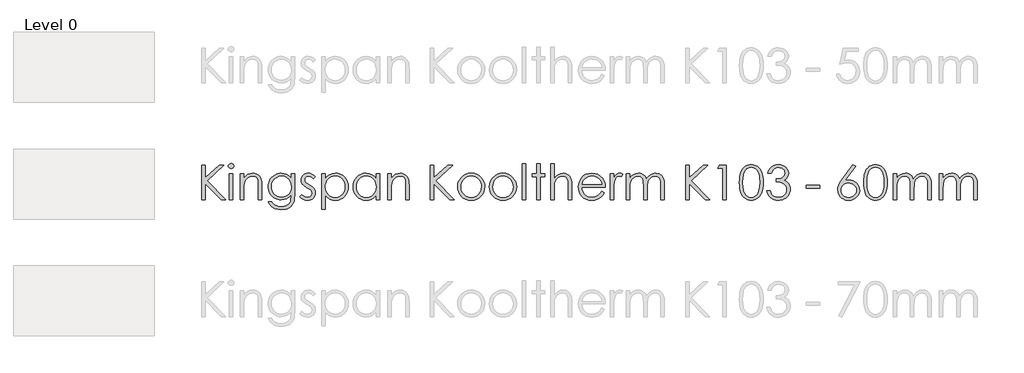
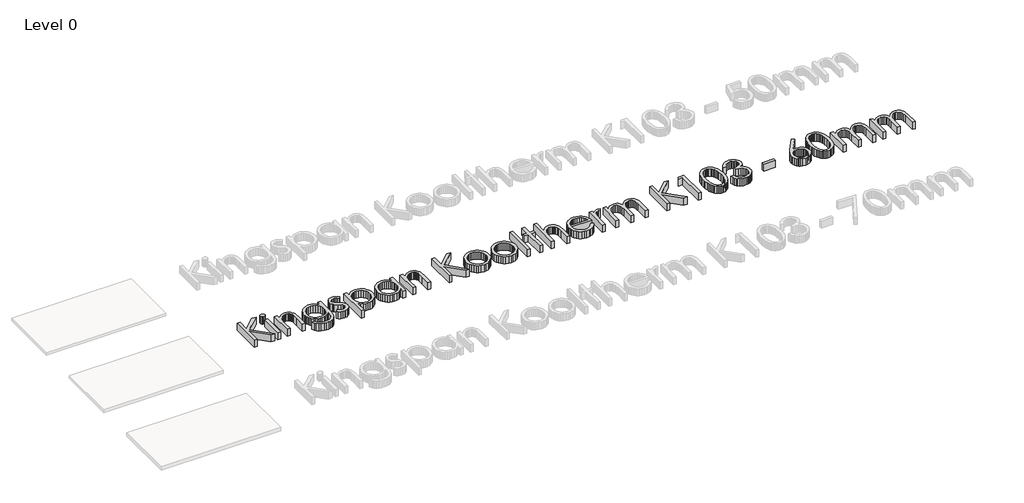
# One storey, part 10 of 13: 1 proxy.
"""IFC4 building model written with IfcOpenShell, lengths in millimetres."""

from ifc_helpers import new_model, si_unit, origin, origin_with_axes, place, context, project, spatial, polyline, outline, extrude, element, save

model = new_model("IFC4")

# Units and contexts
model_context = context("Model", 3, world=origin())
ifc_project = project(units=[si_unit("LENGTHUNIT", "METRE", prefix="MILLI")], contexts=[model_context])

# Site, building, storey
site = spatial("IfcSite", under=ifc_project)
building = spatial("IfcBuilding", under=site)
storey = spatial("IfcBuildingStorey", under=building, Name="Level 0", Elevation=0.0)

# Proxy
placement = place(None, origin())
element("IfcBuildingElementProxy", 1, Name="600mm KI_CenturyGothic", ObjectType="600mm KI_CenturyGothic", at=placement, inside=storey, context=model_context, shape_type="SweptSolid", body=[
    extrude(outline(polyline([(-3852.2663848, -99.1034017), (-3792.944575, -99.1034017), (-3792.944575, -318.316027), (-3555.1938841, -99.1034017), (-3471.6181051, -99.1034017), (-3760.9664119, -366.0515459), (-3441.9572002, -692.3214999), (-3520.8984627, -692.3214999), (-3792.944575, -414.0960325), (-3792.944575, -692.3214999), (-3852.2663848, -692.3214999), (-3852.2663848, -99.1034017)])), origin_with_axes(), (0.0, 0.0, 1.0), 150.0),
    extrude(outline(polyline([(-3348.1854852, -69.4424967), (-3329.145347, -72.7252792), (-3313.1176445, -82.5736265), (-3302.226531, -97.0178693), (-3298.5961598, -114.088338), (-3302.226531, -130.9270809), (-3313.1176445, -145.2940817), (-3329.145347, -155.142429), (-3348.1854852, -158.4252115), (-3366.9938975, -155.142429), (-3382.9443581, -145.2940817), (-3393.8354717, -130.9270809), (-3397.4658428, -114.088338), (-3393.8354717, -97.0178693), (-3382.9443581, -82.5736265), (-3366.9938975, -72.7252792), (-3348.1854852, -69.4424967)])), origin_with_axes(), (0.0, 0.0, 1.0), 150.0),
    extrude(outline(polyline([(-3377.6919062, -247.4079262), (-3318.3700964, -247.4079262), (-3318.3700964, -692.3214999), (-3377.6919062, -692.3214999), (-3377.6919062, -247.4079262)])), origin_with_axes(), (0.0, 0.0, 1.0), 150.0),
    extrude(outline(polyline([(-3189.8395084, -247.4079262), (-3130.5176986, -247.4079262), (-3130.5176986, -326.5036726), (-3096.9946967, -286.9944204), (-3060.0730495, -259.303185), (-3019.7141359, -242.9665147), (-2975.879335, -237.5209579), (-2953.4357238, -239.0995901), (-2932.2955704, -243.8354865), (-2912.4588747, -251.7286472), (-2893.9256368, -262.7790723), (-2877.212412, -276.5039994), (-2862.835756, -292.4206667), (-2841.0921499, -330.8292213), (-2833.6238199, -355.2087086), (-2828.2892984, -385.5551357), (-2824.0216812, -464.1488095), (-2824.0216812, -692.3214999), (-2883.343491, -692.3214999), (-2883.343491, -479.1337458), (-2883.343491, -376.092998), (-2884.7290183, -355.2956057), (-2889.8125035, -337.2403023), (-2898.2849788, -321.9270877), (-2910.1464442, -309.355962), (-2924.7403432, -299.5558909), (-2941.4101193, -292.5558401), (-2980.977303, -286.9557994), (-3005.3471351, -289.1137461), (-3028.4038541, -295.5875862), (-3050.1474602, -306.3773197), (-3070.5779533, -321.4829466), (-3088.6622225, -339.7651482), (-3103.3671568, -360.084606), (-3114.6927562, -382.44132), (-3122.6390208, -406.8352901), (-3128.5480292, -453.9142525), (-3130.5176986, -528.4141035), (-3130.5176986, -692.3214999), (-3189.8395084, -692.3214999), (-3189.8395084, -247.4079262)])), origin_with_axes(), (0.0, 0.0, 1.0), 150.0),
    extrude(outline(polyline([(-2319.7862977, -247.4079262), (-2260.4644879, -247.4079262), (-2260.4644879, -598.395301), (-2264.5196897, -678.6496765), (-2269.588692, -709.4499001), (-2276.6852953, -734.0321474), (-2289.9371156, -762.6454585), (-2307.2924139, -787.7732271), (-2328.7511904, -809.4154531), (-2354.3134448, -827.5721366), (-2383.3226209, -841.9343098), (-2415.122162, -852.1930049), (-2449.7120682, -858.348222), (-2487.0923395, -860.3999611), (-2541.0458345, -856.3833802), (-2589.206184, -844.3336376), (-2630.260275, -825.5059147), (-2662.8949946, -801.1553932), (-2690.2000204, -767.8061856), (-2715.2650299, -721.9824048), (-2655.94322, -721.9824048), (-2642.4355358, -743.151524), (-2627.0933555, -761.3951046), (-2609.9166791, -776.7131468), (-2590.9055067, -789.1056506), (-2569.7894914, -798.6691682), (-2546.2982864, -805.5002523), (-2492.1903075, -810.9651195), (-2438.5071593, -805.6354257), (-2415.083541, -798.9733084), (-2393.93856, -789.6463441), (-2359.6624492, -765.6047903), (-2336.8567664, -736.1176798), (-2329.3884364, -717.4782342), (-2324.0539149, -693.7697863), (-2319.7862977, -631.1458835), (-2319.7862977, -608.4367532), (-2354.757586, -644.2190818), (-2396.6420279, -670.6165148), (-2443.392712, -686.8952536), (-2492.9627269, -692.3214999), (-2522.4063889, -690.4242447), (-2550.9521133, -684.7324793), (-2578.5999001, -675.2462036), (-2605.3497494, -661.9654175), (-2630.1540674, -645.4742634), (-2651.9652601, -626.3568832), (-2670.7833277, -604.6132772), (-2686.6082702, -580.2434451), (-2699.1456025, -553.9280817), (-2708.1008399, -526.3478816), (-2713.4739824, -497.5028447), (-2715.2650299, -467.392971), (-2713.3967404, -437.1044753), (-2707.7918722, -407.8780563), (-2698.4504251, -379.713714), (-2685.3723991, -352.6114483), (-2668.9971079, -327.4257483), (-2649.7638648, -305.0111029), (-2627.67267, -285.367512), (-2602.7235235, -268.4949758), (-2575.9833294, -254.943843), (-2548.5189922, -245.2644624), (-2520.3305117, -239.456834), (-2491.4178881, -237.5209579), (-2444.5320306, -242.4644421), (-2400.8903346, -257.2948945), (-2359.6045177, -283.8661218), (-2319.7862977, -324.0319306), (-2319.7862977, -247.4079262)]), holes=[polyline([(-2484.1571458, -286.9557994), (-2529.0154023, -292.9806707), (-2570.5908765, -311.0552847), (-2606.2187212, -339.7699758), (-2633.2340897, -377.7150788), (-2650.2659375, -421.9940208), (-2655.94322, -469.7102292), (-2653.0080263, -505.6229036), (-2644.2024452, -538.2817613), (-2629.5264766, -567.6868023), (-2608.9801206, -593.8380266), (-2583.7606272, -615.296803), (-2555.0652466, -630.6245004), (-2522.8939786, -639.8211189), (-2487.2468234, -642.8866584), (-2451.3244937, -639.845257), (-2419.1001219, -630.7210528), (-2390.573708, -615.5140459), (-2365.7452519, -594.2242363), (-2345.6382095, -567.9812872), (-2331.2760363, -537.9148621), (-2322.6587323, -504.024961), (-2319.7862977, -466.3115838), (-2325.0773706, -417.6105407), (-2340.9505892, -374.3936754), (-2366.4983608, -338.1672056), (-2400.8130926, -310.4373492), (-2440.9982119, -292.8261869), (-2484.1571458, -286.9557994)])]), origin_with_axes(), (0.0, 0.0, 1.0), 150.0),
    extrude(outline(polyline([(-1904.5336289, -298.6965743), (-1940.9918246, -336.390641), (-1962.9575012, -314.7628978), (-1984.6721416, -299.3145098), (-2006.1357456, -290.045477), (-2027.3483133, -286.9557994), (-2052.181597, -291.6289368), (-2073.2300256, -305.6483489), (-2087.5970264, -325.8857371), (-2092.3860267, -349.212803), (-2088.4466878, -370.7633042), (-2076.628671, -391.2324183), (-2052.0657341, -413.400855), (-2010.2006027, -439.122421), (-1958.3326401, -471.9888664), (-1939.8428507, -487.8138088), (-1926.315856, -503.2332311), (-1909.9791857, -535.9065716), (-1904.5336289, -572.4420092), (-1906.9474396, -598.5884059), (-1914.1888714, -622.6492701), (-1926.2579245, -644.624602), (-1943.1545989, -664.5144015), (-1963.6719892, -681.0055557), (-1986.6031901, -692.7849515), (-2011.9482016, -699.852589), (-2039.7070237, -702.2084682), (-2077.4397114, -698.3270607), (-2113.3958344, -686.6828383), (-2145.4512394, -668.2027042), (-2171.4817731, -643.8135617), (-2135.7959969, -603.3387852), (-2114.0041146, -624.9665283), (-2091.5749863, -640.4149163), (-2068.5086121, -649.6839491), (-2044.8049918, -652.7736267), (-2013.637869, -647.1349651), (-1987.4914724, -630.2189802), (-1969.7644472, -605.6560434), (-1963.8554388, -577.0765256), (-1967.7561567, -553.2860081), (-1979.4583106, -532.2762005), (-2005.0253927, -510.5712154), (-2050.2119275, -483.7682622), (-2099.762632, -453.1032121), (-2117.441381, -437.9444814), (-2130.3890611, -422.9016136), (-2146.3781427, -390.7689666), (-2151.7078365, -354.310771), (-2149.5305794, -330.2643896), (-2142.9988078, -308.3325063), (-2132.1125219, -288.5151211), (-2116.8717217, -270.812234), (-2098.309518, -256.2473007), (-2077.4590218, -245.8437769), (-2054.3202332, -239.6016627), (-2028.8931521, -237.5209579), (-1997.9481, -241.3444339), (-1966.9064954, -252.814862), (-1935.7683384, -271.9322421), (-1904.5336289, -298.6965743)])), origin_with_axes(), (0.0, 0.0, 1.0), 150.0),
    extrude(outline(polyline([(-1795.7769776, -247.4079262), (-1736.4551678, -247.4079262), (-1736.4551678, -328.5119631), (-1700.9238754, -288.2689124), (-1660.4490989, -259.9211205), (-1614.9922173, -243.1209986), (-1564.5146096, -237.5209579), (-1520.0618732, -241.7596094), (-1478.9305402, -254.4755637), (-1441.1206107, -275.668821), (-1406.6320845, -305.3393811), (-1377.9077381, -340.9768811), (-1357.3903478, -380.070958), (-1345.0799137, -422.6216116), (-1340.9764356, -468.628842), (-1345.0412927, -515.5291824), (-1357.235864, -558.7508754), (-1377.5601494, -598.293921), (-1406.014149, -634.1583192), (-1440.2130179, -663.9302594), (-1477.7719111, -685.1959309), (-1518.6908288, -697.9553339), (-1562.9697708, -702.2084682), (-1612.6170277, -696.743601), (-1658.0545988, -680.3489992), (-1699.3211052, -653.1019049), (-1736.4551678, -615.07956), (-1736.4551678, -850.5129928), (-1795.7769776, -850.5129928), (-1795.7769776, -247.4079262)]), holes=[polyline([(-1568.5311905, -286.9557994), (-1602.5852307, -290.2530647), (-1633.8392507, -300.1448607), (-1662.2932503, -316.6311872), (-1687.9472295, -339.7120444), (-1709.1694525, -367.6977647), (-1724.3281832, -398.8986808), (-1733.4234216, -433.3147926), (-1736.4551678, -470.9461002), (-1731.048232, -519.8016272), (-1714.8274246, -563.4819442), (-1688.5265441, -600.3263495), (-1652.8793888, -628.6741414), (-1611.4390881, -646.7487554), (-1567.7587711, -652.7736267), (-1525.0632888, -646.7101344), (-1485.0326535, -628.5196576), (-1450.2544701, -599.4187567), (-1423.3163435, -560.6239924), (-1406.05277, -515.9588407), (-1400.2982454, -469.2467775), (-1405.9948385, -422.3029886), (-1423.0846177, -377.8695627), (-1449.8103289, -339.5189395), (-1484.414718, -310.8235589), (-1524.7157001, -292.9227393), (-1568.5311905, -286.9557994)])]), origin_with_axes(), (0.0, 0.0, 1.0), 150.0),
    extrude(outline(polyline([(-807.0801472, -247.4079262), (-807.0801472, -692.3214999), (-866.401957, -692.3214999), (-866.401957, -616.4699149), (-903.4780882, -654.3184655), (-944.8797679, -681.0441767), (-990.4525125, -696.9173953), (-1040.0418379, -702.2084682), (-1084.3159523, -697.9553339), (-1125.2203871, -685.1959309), (-1162.7551422, -663.9302594), (-1196.9202178, -634.1583192), (-1225.340424, -598.293921), (-1245.6405713, -558.7508754), (-1257.8206597, -515.5291824), (-1261.8806892, -468.628842), (-1257.7820388, -422.6216116), (-1245.4860875, -380.070958), (-1224.9928353, -340.9768811), (-1196.3022822, -305.3393811), (-1161.8475494, -275.668821), (-1124.061758, -254.4755637), (-1082.9449079, -241.7596094), (-1038.4969991, -237.5209579), (-987.7490446, -243.1209986), (-942.0990581, -259.9211205), (-921.2051134, -272.6081091), (-901.6242816, -288.2689124), (-866.401957, -328.5119631), (-866.401957, -247.4079262), (-807.0801472, -247.4079262)]), holes=[polyline([(-1034.3259343, -286.9557994), (-1078.1414247, -292.9227393), (-1118.4424068, -310.8235589), (-1153.0467959, -339.5189395), (-1179.7725071, -377.8695627), (-1196.8622863, -422.3029886), (-1202.5588794, -469.2467775), (-1196.8043548, -515.9588407), (-1179.5407813, -560.6239924), (-1152.6026548, -599.4187567), (-1117.8244713, -628.5196576), (-1077.6779731, -646.7101344), (-1034.6349021, -652.7736267), (-991.0125165, -646.7487554), (-949.7460102, -628.6741414), (-914.2726493, -600.3263495), (-888.0297002, -563.4819442), (-871.8088928, -519.8016272), (-866.401957, -470.9461002), (-869.4337032, -433.3147926), (-878.5289416, -398.8986808), (-893.6876723, -367.6977647), (-914.9098953, -339.7120444), (-940.5638746, -316.6311872), (-969.0178742, -300.1448607), (-1000.2718941, -290.2530647), (-1034.3259343, -286.9557994)])]), origin_with_axes(), (0.0, 0.0, 1.0), 150.0),
    extrude(outline(polyline([(-668.662591, -247.4079262), (-609.3407811, -247.4079262), (-609.3407811, -326.5036726), (-575.8177792, -286.9944204), (-538.896132, -259.303185), (-498.5372184, -242.9665147), (-454.7024175, -237.5209579), (-432.2588064, -239.0995901), (-411.1186529, -243.8354865), (-391.2819572, -251.7286472), (-372.7487193, -262.7790723), (-356.0354946, -276.5039994), (-341.6588385, -292.4206667), (-319.9152324, -330.8292213), (-312.4469024, -355.2087086), (-307.1123809, -385.5551357), (-302.8447637, -464.1488095), (-302.8447637, -692.3214999), (-362.1665735, -692.3214999), (-362.1665735, -479.1337458), (-362.1665735, -376.092998), (-363.5521008, -355.2956057), (-368.635586, -337.2403023), (-377.1080613, -321.9270877), (-388.9695267, -309.355962), (-403.5634257, -299.5558909), (-420.2332018, -292.5558401), (-459.8003855, -286.9557994), (-484.1702176, -289.1137461), (-507.2269366, -295.5875862), (-528.9705427, -306.3773197), (-549.4010358, -321.4829466), (-567.485305, -339.7651482), (-582.1902393, -360.084606), (-593.5158387, -382.44132), (-601.4621033, -406.8352901), (-607.3711117, -453.9142525), (-609.3407811, -528.4141035), (-609.3407811, -692.3214999), (-668.662591, -692.3214999), (-668.662591, -247.4079262)])), origin_with_axes(), (0.0, 0.0, 1.0), 150.0),
    extrude(outline(polyline([(62.9730635, -99.1034017), (122.2948734, -99.1034017), (122.2948734, -318.316027), (360.0455643, -99.1034017), (443.6213432, -99.1034017), (154.2730365, -366.0515459), (473.2822481, -692.3214999), (394.3409856, -692.3214999), (122.2948734, -414.0960325), (122.2948734, -692.3214999), (62.9730635, -692.3214999), (62.9730635, -99.1034017)])), origin_with_axes(), (0.0, 0.0, 1.0), 150.0),
    extrude(outline(polyline([(760.1588128, -237.5209579), (809.4681362, -242.1458191), (854.3553585, -256.0204025), (894.8204798, -279.1447083), (930.8635, -311.5187363), (957.7630055, -346.7507161), (976.9769381, -385.091684), (988.5052976, -426.54164), (992.3480841, -471.1005841), (988.283227, -515.9153921), (976.0886558, -557.8239721), (955.7643703, -596.8263241), (927.3103707, -632.9224481), (892.4742558, -663.2350819), (853.0036246, -684.8869632), (808.8984769, -697.8780919), (760.1588128, -702.2084682), (711.2839754, -697.8780919), (667.0822753, -684.8869632), (627.5537126, -663.2350819), (592.6982872, -632.9224481), (564.2442876, -596.8263241), (543.9200022, -557.8239721), (531.7254309, -515.9153921), (527.6605738, -471.1005841), (531.5033603, -426.7347449), (543.0317198, -385.4006518), (562.2456524, -347.0983049), (589.145158, -311.8277041), (625.2074886, -279.3185026), (665.7305413, -256.0976445), (710.7143161, -242.1651295), (760.1588128, -237.5209579)]), holes=[polyline([(760.004329, -286.9557994), (725.7282181, -290.3303067), (693.9624704, -300.4538284), (664.7070856, -317.3263647), (637.962064, -340.9479154), (615.6584538, -369.3584664), (599.7273037, -400.5980035), (590.1686137, -434.6665266), (586.9823836, -471.5640357), (592.7948396, -519.2995546), (610.2322075, -563.6364281), (637.5758543, -601.4270471), (673.1071466, -629.5238028), (714.6439998, -646.9611707), (760.004329, -652.7736267), (805.3646581, -646.9611707), (846.9015113, -629.5238028), (882.4328037, -601.4270471), (909.7764504, -563.6364281), (927.2138183, -519.2995546), (933.0262743, -471.5640357), (929.8255614, -434.6665266), (920.2234227, -400.5980035), (904.2198583, -369.3584664), (881.8148681, -340.9479154), (854.9974321, -317.3263647), (825.7565303, -300.4538284), (794.0921625, -290.3303067), (760.004329, -286.9557994)])]), origin_with_axes(), (0.0, 0.0, 1.0), 150.0),
    extrude(outline(polyline([(1303.9420695, -237.5209579), (1353.2513929, -242.1458191), (1398.1386152, -256.0204025), (1438.6037365, -279.1447083), (1474.6467567, -311.5187363), (1501.5462622, -346.7507161), (1520.7601948, -385.091684), (1532.2885543, -426.54164), (1536.1313408, -471.1005841), (1532.0664837, -515.9153921), (1519.8719125, -557.8239721), (1499.547627, -596.8263241), (1471.0936274, -632.9224481), (1436.2575126, -663.2350819), (1396.7868813, -684.8869632), (1352.6817336, -697.8780919), (1303.9420695, -702.2084682), (1255.0672321, -697.8780919), (1210.865532, -684.8869632), (1171.3369693, -663.2350819), (1136.4815439, -632.9224481), (1108.0275443, -596.8263241), (1087.7032589, -557.8239721), (1075.5086876, -515.9153921), (1071.4438305, -471.1005841), (1075.286617, -426.7347449), (1086.8149766, -385.4006518), (1106.0289091, -347.0983049), (1132.9284147, -311.8277041), (1168.9907453, -279.3185026), (1209.5137981, -256.0976445), (1254.4975728, -242.1651295), (1303.9420695, -237.5209579)]), holes=[polyline([(1303.7875857, -286.9557994), (1269.5114748, -290.3303067), (1237.7457271, -300.4538284), (1208.4903423, -317.3263647), (1181.7453207, -340.9479154), (1159.4417105, -369.3584664), (1143.5105604, -400.5980035), (1133.9518704, -434.6665266), (1130.7656404, -471.5640357), (1136.5780963, -519.2995546), (1154.0154643, -563.6364281), (1181.359111, -601.4270471), (1216.8904033, -629.5238028), (1258.4272565, -646.9611707), (1303.7875857, -652.7736267), (1349.1479149, -646.9611707), (1390.684768, -629.5238028), (1426.2160604, -601.4270471), (1453.5597071, -563.6364281), (1470.997075, -519.2995546), (1476.809531, -471.5640357), (1473.6088181, -434.6665266), (1464.0066795, -400.5980035), (1448.003115, -369.3584664), (1425.5981249, -340.9479154), (1398.7806889, -317.3263647), (1369.539787, -300.4538284), (1337.8754193, -290.3303067), (1303.7875857, -286.9557994)])]), origin_with_axes(), (0.0, 0.0, 1.0), 150.0),
    extrude(outline(polyline([(1635.0010238, -79.3294651), (1694.3228337, -79.3294651), (1694.3228337, -692.3214999), (1635.0010238, -692.3214999), (1635.0010238, -79.3294651)])), origin_with_axes(), (0.0, 0.0, 1.0), 150.0),
    extrude(outline(polyline([(1882.1752314, -79.3294651), (1941.4970413, -79.3294651), (1941.4970413, -247.4079262), (2020.5927877, -247.4079262), (2020.5927877, -296.8427677), (1941.4970413, -296.8427677), (1941.4970413, -692.3214999), (1882.1752314, -692.3214999), (1882.1752314, -296.8427677), (1803.079485, -296.8427677), (1803.079485, -247.4079262), (1882.1752314, -247.4079262), (1882.1752314, -79.3294651)])), origin_with_axes(), (0.0, 0.0, 1.0), 150.0),
    extrude(outline(polyline([(2119.4624707, -79.3294651), (2178.7842806, -79.3294651), (2178.7842806, -328.0485114), (2212.5583188, -288.3461544), (2249.6151394, -260.0756044), (2289.9161216, -243.1596195), (2333.4226442, -237.5209579), (2355.8662553, -239.0995901), (2377.0064088, -243.8354865), (2396.8431044, -251.7286472), (2415.3763424, -262.7790723), (2432.0895671, -276.4895166), (2446.4662232, -292.3627352), (2468.2098293, -330.5974955), (2475.6781593, -354.9045684), (2481.0126808, -385.2654784), (2485.280298, -464.1488095), (2485.280298, -692.3214999), (2425.9584882, -692.3214999), (2425.9584882, -479.1337458), (2424.5681332, -414.752589), (2420.3970685, -376.092998), (2406.879729, -337.2403023), (2397.1665551, -321.9270877), (2385.4837117, -309.355962), (2371.840854, -299.5558909), (2356.2476374, -292.5558401), (2319.2101273, -286.9557994), (2296.3416854, -289.1137461), (2274.6994594, -295.5875862), (2254.2834492, -306.3773197), (2235.0936547, -321.4829466), (2218.1052556, -339.7651482), (2204.2934312, -360.084606), (2193.6581816, -382.44132), (2186.1995068, -406.8352901), (2180.6380871, -453.6825267), (2178.7842806, -528.4141035), (2178.7842806, -692.3214999), (2119.4624707, -692.3214999), (2119.4624707, -79.3294651)])), origin_with_axes(), (0.0, 0.0, 1.0), 150.0),
    extrude(outline(polyline([(2991.0605203, -544.0169753), (3038.950523, -569.1978477), (3013.3255094, -611.0822896), (2984.0315038, -644.0452875), (2950.952643, -669.1296074), (2913.9730643, -687.3780157), (2872.4941426, -698.5008551), (2825.9172528, -702.2084682), (2774.4258447, -697.7767119), (2728.8627554, -684.481443), (2689.227985, -662.3226615), (2655.5215335, -631.3003674), (2628.6220279, -594.6973431), (2609.4080954, -555.7963712), (2597.8797358, -514.5974515), (2594.0369493, -471.1005841), (2597.3197318, -430.2202874), (2607.1680791, -391.618628), (2623.5819913, -355.2956057), (2646.5614684, -321.2512207), (2682.7493173, -284.6192308), (2724.5758277, -258.4535236), (2772.0409998, -242.7540993), (2825.1448334, -237.5209579), (2879.7935059, -242.8892727), (2928.6490329, -258.9942172), (2971.7114143, -285.8357913), (3008.9806503, -323.4139951), (3030.4539096, -355.585263), (3045.9022976, -391.541386), (3055.3258143, -431.2823641), (3058.7244596, -474.8081972), (2653.3587591, -474.8081972), (2657.095338, -512.0629503), (2666.6057518, -545.8128504), (2681.8900007, -576.0578975), (2702.9480845, -602.7980916), (2728.3124066, -624.6623882), (2756.5153699, -640.2797429), (2787.5569744, -649.6501557), (2821.4372203, -652.7736267), (2854.9602222, -649.761191), (2887.5563208, -640.7238841), (2917.2944677, -626.6851615), (2942.2436143, -608.668479), (2965.725164, -582.5027719), (2991.0605203, -544.0169753)]), holes=[polyline([(2999.4026498, -425.3733557), (2984.9777175, -382.8516678), (2965.1844704, -349.8307385), (2939.0766947, -324.3022774), (2905.7081767, -304.257994), (2867.7630738, -291.2813481), (2827.9255433, -286.9557994), (2795.503239, -289.6689226), (2765.4368139, -297.808292), (2737.726268, -311.3739077), (2712.3716012, -330.3657696), (2695.8321708, -348.179692), (2681.4362043, -369.9522638), (2669.1837016, -395.683485), (2659.0746627, -425.3733557), (2999.4026498, -425.3733557)])]), origin_with_axes(), (0.0, 0.0, 1.0), 150.0),
    extrude(outline(polyline([(3137.820206, -247.4079262), (3197.1420159, -247.4079262), (3197.1420159, -311.8277041), (3222.6897875, -278.7874643), (3249.589293, -255.6728138), (3277.7632906, -242.0589219), (3307.1345382, -237.5209579), (3330.4616041, -241.305813), (3355.3335087, -252.6603781), (3325.8270877, -294.6799934), (3297.2475699, -286.9557994), (3270.8308265, -292.9034288), (3245.3409863, -310.7463169), (3223.2884125, -341.1023993), (3207.183468, -384.5896114), (3199.6523789, -442.7141712), (3197.1420159, -540.1548783), (3197.1420159, -692.3214999), (3137.820206, -692.3214999), (3137.820206, -247.4079262)])), origin_with_axes(), (0.0, 0.0, 1.0), 150.0),
    extrude(outline(polyline([(3414.6553185, -247.4079262), (3473.9771284, -247.4079262), (3473.9771284, -323.5684789), (3503.5607913, -287.0716623), (3533.9168737, -261.9294109), (3577.3268439, -243.6230712), (3622.8995884, -237.5209579), (3653.7384329, -240.668567), (3682.9165757, -250.1113941), (3708.6767627, -264.7873627), (3729.2617397, -283.634396), (3746.0425511, -309.0663047), (3760.3902414, -343.4968994), (3775.16759, -319.0981017), (3791.6925376, -297.808292), (3809.965084, -279.6274704), (3829.9852293, -264.5556369), (3851.2798666, -252.7279648), (3873.375889, -244.2796277), (3896.2732965, -239.2106253), (3919.9720892, -237.5209579), (3962.3006723, -243.3334139), (3981.4952943, -250.5989839), (3999.3768034, -260.7707818), (4015.4914031, -273.53984), (4029.385297, -288.5971907), (4050.5109676, -325.5767694), (4057.8103309, -348.9521114), (4063.0241619, -377.5219739), (4067.1952266, -450.2452603), (4067.1952266, -692.3214999), (4007.8734168, -692.3214999), (4007.8734168, -446.6921311), (4005.4209852, -385.5744462), (3998.0636904, -347.1272706), (3984.7587663, -322.6608861), (3964.4634466, -303.4855746), (3938.3942919, -291.0882432), (3907.7678627, -286.9557994), (3888.1194443, -288.5054659), (3869.3399976, -293.1544651), (3834.3880198, -311.7504621), (3805.6540182, -340.6968791), (3785.8800816, -377.9468046), (3779.1889985, -402.1042213), (3774.4096535, -433.1747916), (3770.5861775, -516.0553931), (3770.5861775, -692.3214999), (3711.2643677, -692.3214999), (3711.2643677, -461.9860352), (3708.850557, -393.530366), (3701.6091252, -351.2983353), (3688.3621325, -325.0553863), (3667.9316394, -304.5669617), (3641.6114484, -291.35859), (3610.6953619, -286.9557994), (3573.7544042, -292.9999812), (3539.2465676, -311.1325266), (3510.2808401, -339.499629), (3489.9662099, -376.2474819), (3477.9743988, -428.0768236), (3473.9771284, -501.6883923), (3473.9771284, -692.3214999), (3414.6553185, -692.3214999), (3414.6553185, -247.4079262)])), origin_with_axes(), (0.0, 0.0, 1.0), 150.0),
    extrude(outline(polyline([(4433.0130538, -99.1034017), (4492.3348637, -99.1034017), (4492.3348637, -318.316027), (4730.0855546, -99.1034017), (4813.6613335, -99.1034017), (4524.3130268, -366.0515459), (4843.3222385, -692.3214999), (4764.3809759, -692.3214999), (4492.3348637, -414.0960325), (4492.3348637, -692.3214999), (4433.0130538, -692.3214999), (4433.0130538, -99.1034017)])), origin_with_axes(), (0.0, 0.0, 1.0), 150.0),
    extrude(outline(polyline([(5010.6282802, -99.1034017), (5125.1008351, -99.1034017), (5125.1008351, -692.3214999), (5065.7790253, -692.3214999), (5065.7790253, -148.5382432), (4976.7963106, -148.5382432), (5010.6282802, -99.1034017)])), origin_with_axes(), (0.0, 0.0, 1.0), 150.0),
    extrude(outline(polyline([(5352.5011061, -395.8669347), (5354.0797383, -341.4355052), (5358.8156347, -293.5406748), (5366.7087954, -252.1824436), (5377.7592204, -217.3608116), (5391.6869077, -187.7192172), (5408.2118552, -161.9010988), (5427.334063, -139.9064564), (5449.053531, -121.73529), (5472.747496, -107.5082902), (5497.793195, -97.3461475), (5524.190628, -91.2488619), (5551.9397949, -89.2164334), (5580.1427582, -91.2633448), (5606.974677, -97.404079), (5632.4355515, -107.638636), (5656.5253815, -121.9670159), (5678.7083011, -140.3843909), (5698.4484443, -162.8859335), (5715.7458112, -189.4716437), (5730.6004018, -220.1415214), (5742.5294539, -255.6583309), (5751.0502054, -296.7848363), (5756.1626563, -343.5210375), (5757.8668066, -395.8669347), (5756.1867944, -448.0535203), (5751.1467578, -494.6207548), (5742.7466968, -535.5686382), (5730.9866115, -570.8971704), (5716.2768496, -601.4222195), (5699.0277589, -627.9596535), (5679.2393394, -650.5094723), (5656.9115912, -669.071676), (5632.6527944, -683.5690226), (5607.0712295, -693.9242701), (5580.1668963, -700.1374187), (5551.9397949, -702.2084682), (5524.2147661, -700.2001778), (5497.8897474, -694.1753064), (5472.964739, -684.1338543), (5449.4397407, -670.0758212), (5427.8651013, -652.0398282), (5408.7911698, -630.0644964), (5392.2179461, -604.1498255), (5378.1454301, -574.2958158), (5366.9260384, -539.2762513), (5358.9121871, -497.8649163), (5354.1038764, -450.0618107), (5352.5011061, -395.8669347)]), holes=[polyline([(5411.8229159, -395.7124508), (5416.206396, -484.038609), (5421.6857461, -519.0195525), (5429.3568363, -547.8790723), (5439.1713903, -572.1185586), (5451.0811319, -593.2394015), (5465.0860611, -611.2416011), (5481.1861779, -626.1251574), (5516.4857445, -646.1115094), (5534.8886366, -651.1080973), (5553.7936014, -652.7736267), (5572.7854634, -651.1418907), (5591.1400794, -646.2466828), (5625.9375733, -626.665851), (5641.694929, -611.9898824), (5655.4439943, -594.0697524), (5667.1847692, -572.9054608), (5676.9172536, -548.4970078), (5686.3793912, -515.1381451), (5693.138061, -478.5544313), (5698.5449967, -395.7124508), (5693.7173755, -314.1063413), (5687.682849, -279.4150551), (5679.2345118, -248.7982811), (5668.652366, -222.135329), (5656.2164137, -199.3055082), (5641.9266548, -180.3088186), (5625.7830894, -165.1452603), (5590.7152487, -145.2747712), (5572.4861509, -140.307149), (5553.7936014, -138.6512749), (5534.7776014, -140.307149), (5516.3505711, -145.2747712), (5481.2634199, -165.1452603), (5465.3177869, -179.9564022), (5451.3900996, -197.8958428), (5439.480358, -218.9635819), (5429.5885621, -243.1596195), (5421.8160919, -272.0143117), (5416.2643275, -307.0580143), (5411.8229159, -395.7124508)])]), origin_with_axes(), (0.0, 0.0, 1.0), 150.0),
    extrude(outline(polyline([(5896.2843628, -237.5209579), (5836.962553, -237.5209579), (5847.4867673, -203.8917483), (5861.9116996, -174.3756721), (5880.2373498, -148.9727291), (5902.463718, -127.6829194), (5927.7314876, -110.8538318), (5955.181342, -98.8330549), (5984.8132812, -91.6205887), (6016.6273051, -89.2164334), (6062.9145376, -94.3723328), (6105.9962296, -109.8400313), (6142.7827034, -134.0553795), (6170.1842816, -165.454228), (6187.2161294, -201.2365567), (6192.8934119, -238.6023451), (6188.2106193, -274.037085), (6174.1622415, -305.5711069), (6150.7482785, -333.2044109), (6117.9687303, -356.936997), (6155.3538292, -378.1012885), (6185.3237018, -407.2987418), (6201.6120959, -431.398227), (6213.2466631, -456.8880672), (6220.2274034, -483.7682622), (6222.5543169, -512.0388122), (6220.8549942, -536.7031292), (6215.7570261, -560.7977868), (6207.2604128, -584.3227851), (6195.365154, -607.2781241), (6180.5347016, -628.6644862), (6163.232507, -647.4825538), (6143.4585704, -663.7323269), (6121.2128917, -677.4138055), (6097.0361646, -688.2614704), (6071.4690825, -696.0098025), (6044.5116454, -700.6588018), (6016.1638535, -702.2084682), (5978.6290984, -699.5387936), (5944.3481599, -691.52977), (5913.3210382, -678.1813973), (5885.5477332, -659.4936754), (5861.6654909, -635.6403989), (5842.3115573, -606.795362), (5827.4859325, -572.9585647), (5817.1886164, -534.130007), (5876.5104262, -534.130007), (5895.5505644, -584.8779615), (5907.6485832, -604.169136), (5921.4652352, -619.4051087), (5941.5288291, -634.0038353), (5964.180028, -644.4314972), (5989.4188318, -650.6880943), (6017.2452407, -652.7736267), (6048.6054683, -650.2777465), (6076.7215344, -642.7901059), (6101.593439, -630.310705), (6123.2211822, -612.8395438), (6140.7261368, -592.0180133), (6153.2296758, -569.487505), (6160.7317992, -545.2480188), (6163.232507, -519.2995546), (6158.2310914, -484.7337865), (6143.2268446, -452.4080346), (6119.8032263, -425.0450774), (6089.5436964, -405.3676933), (6046.6357988, -392.5648417), (5985.2670776, -385.8254825), (5985.2670776, -336.390641), (6027.1515195, -332.7409593), (6065.0580014, -321.7919143), (6096.0706403, -305.2042077), (6117.2735528, -284.6385412), (6129.4970898, -261.0797496), (6133.5716021, -235.5126675), (6131.5102078, -216.4821845), (6125.326025, -198.7841251), (6115.0190537, -182.4184891), (6100.5892938, -167.3852765), (6083.0119248, -154.8141508), (6063.2621263, -145.8347753), (6041.3398983, -140.44715), (6017.2452407, -138.6512749), (5979.2228958, -144.270626), (5946.7233496, -161.1286794), (5932.4191078, -174.3322235), (5919.2445295, -191.4654513), (5896.2843628, -237.5209579)])), origin_with_axes(), (0.0, 0.0, 1.0), 150.0),
    extrude(outline(polyline([(6499.3894294, -445.1472923), (6726.7897004, -445.1472923), (6726.7897004, -494.5821338), (6499.3894294, -494.5821338), (6499.3894294, -445.1472923)])), origin_with_axes(), (0.0, 0.0, 1.0), 150.0),
    extrude(outline(polyline([(7290.3468937, -89.2164334), (7342.7169289, -114.8607574), (7166.605306, -360.9535778), (7229.1712773, -356.1645776), (7265.2915394, -359.2349447), (7298.5731603, -368.446046), (7329.0161398, -383.7978816), (7356.6204781, -405.2904513), (7379.5323685, -431.2727088), (7395.8980045, -460.0936077), (7405.7173861, -491.7531478), (7408.9905133, -526.2513292), (7407.4601574, -550.3025382), (7402.8690896, -573.1758076), (7395.2173099, -594.8711375), (7384.5048184, -615.3885278), (7370.9826513, -634.2934926), (7354.9018449, -651.1515459), (7315.0643144, -678.7269185), (7268.3715618, -696.3380808), (7218.2029218, -702.2084682), (7169.830157, -696.3573913), (7125.1263843, -678.8041604), (7104.8407198, -665.9192393), (7086.8530031, -650.6687838), (7071.163234, -633.0527939), (7057.7714127, -613.0712696), (7039.4071415, -569.2364687), (7033.2857178, -522.3892322), (7037.1091938, -485.4482744), (7048.5796219, -446.6148892), (7069.8983973, -402.7993988), (7103.2669153, -350.9121256), (7290.3468937, -89.2164334)]), holes=[polyline([(7216.5035992, -405.5994191), (7190.2268567, -407.8587458), (7166.5473745, -414.636726), (7145.4651526, -425.9333598), (7126.9801908, -441.7486469), (7111.9421507, -460.7791299), (7101.2006934, -481.7213508), (7094.755819, -504.5753098), (7092.6075276, -529.3410068), (7094.9585791, -553.9715303), (7102.0117338, -576.7289369), (7113.7669915, -597.6132264), (7130.2243523, -616.6243988), (7150.0127718, -632.439686), (7171.7612055, -643.7363197), (7195.4696534, -650.5142999), (7221.1381155, -652.7736267), (7246.8065777, -650.5142999), (7270.5150256, -643.7363197), (7292.2634593, -632.439686), (7312.0518788, -616.6243988), (7328.5092396, -597.6132264), (7340.2644973, -576.7289369), (7347.317652, -553.9715303), (7349.6687035, -529.3410068), (7347.2307548, -504.5753098), (7339.9169086, -481.7213508), (7327.727165, -460.7791299), (7310.6615239, -441.7486469), (7290.1489612, -425.9333598), (7267.6184529, -414.636726), (7243.0699988, -407.8587458), (7216.5035992, -405.5994191)])]), origin_with_axes(), (0.0, 0.0, 1.0), 150.0),
    extrude(outline(polyline([(7478.1992914, -395.8669347), (7479.7779236, -341.4355052), (7484.51382, -293.5406748), (7492.4069808, -252.1824436), (7503.4574058, -217.3608116), (7517.3850931, -187.7192172), (7533.9100406, -161.9010988), (7553.0322483, -139.9064564), (7574.7517163, -121.73529), (7598.4456813, -107.5082902), (7623.4913804, -97.3461475), (7649.8888133, -91.2488619), (7677.6379802, -89.2164334), (7705.8409435, -91.2633448), (7732.6728624, -97.404079), (7758.1337368, -107.638636), (7782.2235668, -121.9670159), (7804.4064864, -140.3843909), (7824.1466297, -162.8859335), (7841.4439966, -189.4716437), (7856.2985871, -220.1415214), (7868.2276392, -255.6583309), (7876.7483907, -296.7848363), (7881.8608416, -343.5210375), (7883.5649919, -395.8669347), (7881.8849797, -448.0535203), (7876.8449431, -494.6207548), (7868.4448822, -535.5686382), (7856.6847968, -570.8971704), (7841.9750349, -601.4222195), (7824.7259442, -627.9596535), (7804.9375247, -650.5094723), (7782.6097765, -669.071676), (7758.3509797, -683.5690226), (7732.7694148, -693.9242701), (7705.8650816, -700.1374187), (7677.6379802, -702.2084682), (7649.9129514, -700.2001778), (7623.5879328, -694.1753064), (7598.6629243, -684.1338543), (7575.137926, -670.0758212), (7553.5632867, -652.0398282), (7534.4893551, -630.0644964), (7517.9161314, -604.1498255), (7503.8436155, -574.2958158), (7492.6242237, -539.2762513), (7484.6103725, -497.8649163), (7479.8020617, -450.0618107), (7478.1992914, -395.8669347)]), holes=[polyline([(7537.5211013, -395.7124508), (7541.9045814, -484.038609), (7547.3839315, -519.0195525), (7555.0550216, -547.8790723), (7564.8695756, -572.1185586), (7576.7793172, -593.2394015), (7590.7842464, -611.2416011), (7606.8843633, -626.1251574), (7642.1839298, -646.1115094), (7660.586822, -651.1080973), (7679.4917868, -652.7736267), (7698.4836487, -651.1418907), (7716.8382647, -646.2466828), (7751.6357586, -626.665851), (7767.3931143, -611.9898824), (7781.1421796, -594.0697524), (7792.8829545, -572.9054608), (7802.6154389, -548.4970078), (7812.0775766, -515.1381451), (7818.8362463, -478.5544313), (7824.2431821, -395.7124508), (7819.4155608, -314.1063413), (7813.3810343, -279.4150551), (7804.9326971, -248.7982811), (7794.3505514, -222.135329), (7781.914599, -199.3055082), (7767.6248402, -180.3088186), (7751.4812747, -165.1452603), (7716.413434, -145.2747712), (7698.1843362, -140.307149), (7679.4917868, -138.6512749), (7660.4757867, -140.307149), (7642.0487564, -145.2747712), (7606.9616052, -165.1452603), (7591.0159723, -179.9564022), (7577.088285, -197.8958428), (7565.1785434, -218.9635819), (7555.2867474, -243.1596195), (7547.5142772, -272.0143117), (7541.9625128, -307.0580143), (7537.5211013, -395.7124508)])]), origin_with_axes(), (0.0, 0.0, 1.0), 150.0),
    extrude(outline(polyline([(7982.4346749, -247.4079262), (8041.7564848, -247.4079262), (8041.7564848, -323.5684789), (8071.3401477, -287.0716623), (8101.6962301, -261.9294109), (8145.1062003, -243.6230712), (8190.6789448, -237.5209579), (8221.5177893, -240.668567), (8250.6959321, -250.1113941), (8276.4561191, -264.7873627), (8297.0410961, -283.634396), (8313.8219075, -309.0663047), (8328.1695978, -343.4968994), (8342.9469464, -319.0981017), (8359.471894, -297.808292), (8377.7444404, -279.6274704), (8397.7645856, -264.5556369), (8419.0592229, -252.7279648), (8441.1552454, -244.2796277), (8464.0526529, -239.2106253), (8487.7514456, -237.5209579), (8530.0800287, -243.3334139), (8549.2746507, -250.5989839), (8567.1561598, -260.7707818), (8583.2707595, -273.53984), (8597.1646534, -288.5971907), (8618.290324, -325.5767694), (8625.5896873, -348.9521114), (8630.8035182, -377.5219739), (8634.974583, -450.2452603), (8634.974583, -692.3214999), (8575.6527732, -692.3214999), (8575.6527732, -446.6921311), (8573.2003416, -385.5744462), (8565.8430468, -347.1272706), (8552.5381227, -322.6608861), (8532.242803, -303.4855746), (8506.1736483, -291.0882432), (8475.5472191, -286.9557994), (8455.8988006, -288.5054659), (8437.119354, -293.1544651), (8402.1673762, -311.7504621), (8373.4333746, -340.6968791), (8353.659438, -377.9468046), (8346.9683549, -402.1042213), (8342.1890099, -433.1747916), (8338.3655339, -516.0553931), (8338.3655339, -692.3214999), (8279.0437241, -692.3214999), (8279.0437241, -461.9860352), (8276.6299134, -393.530366), (8269.3884816, -351.2983353), (8256.1414889, -325.0553863), (8235.7109958, -304.5669617), (8209.3908048, -291.35859), (8178.4747183, -286.9557994), (8141.5337606, -292.9999812), (8107.025924, -311.1325266), (8078.0601965, -339.499629), (8057.7455663, -376.2474819), (8045.7537552, -428.0768236), (8041.7564848, -501.6883923), (8041.7564848, -692.3214999), (7982.4346749, -692.3214999), (7982.4346749, -247.4079262)])), origin_with_axes(), (0.0, 0.0, 1.0), 150.0),
    extrude(outline(polyline([(8773.3921393, -247.4079262), (8832.7139491, -247.4079262), (8832.7139491, -323.5684789), (8862.2976121, -287.0716623), (8892.6536944, -261.9294109), (8936.0636646, -243.6230712), (8981.6364092, -237.5209579), (9012.4752537, -240.668567), (9041.6533964, -250.1113941), (9067.4135834, -264.7873627), (9087.9985604, -283.634396), (9104.7793718, -309.0663047), (9119.1270621, -343.4968994), (9133.9044108, -319.0981017), (9150.4293583, -297.808292), (9168.7019047, -279.6274704), (9188.72205, -264.5556369), (9210.0166873, -252.7279648), (9232.1127097, -244.2796277), (9255.0101172, -239.2106253), (9278.7089099, -237.5209579), (9321.037493, -243.3334139), (9340.232115, -250.5989839), (9358.1136241, -260.7707818), (9374.2282238, -273.53984), (9388.1221177, -288.5971907), (9409.2477883, -325.5767694), (9416.5471516, -348.9521114), (9421.7609826, -377.5219739), (9425.9320473, -450.2452603), (9425.9320473, -692.3214999), (9366.6102375, -692.3214999), (9366.6102375, -446.6921311), (9364.1578059, -385.5744462), (9356.8005111, -347.1272706), (9343.495587, -322.6608861), (9323.2002673, -303.4855746), (9297.1311126, -291.0882432), (9266.5046834, -286.9557994), (9246.856265, -288.5054659), (9228.0768183, -293.1544651), (9193.1248405, -311.7504621), (9164.3908389, -340.6968791), (9144.6169023, -377.9468046), (9137.9258192, -402.1042213), (9133.1464742, -433.1747916), (9129.3229982, -516.0553931), (9129.3229982, -692.3214999), (9070.0011884, -692.3214999), (9070.0011884, -461.9860352), (9067.5873778, -393.530366), (9060.3459459, -351.2983353), (9047.0989532, -325.0553863), (9026.6684601, -304.5669617), (9000.3482691, -291.35859), (8969.4321827, -286.9557994), (8932.4912249, -292.9999812), (8897.9833883, -311.1325266), (8869.0176608, -339.499629), (8848.7030306, -376.2474819), (8836.7112195, -428.0768236), (8832.7139491, -501.6883923), (8832.7139491, -692.3214999), (8773.3921393, -692.3214999), (8773.3921393, -247.4079262)])), origin_with_axes(), (0.0, 0.0, 1.0), 150.0),
])

save(model, "model.ifc")
